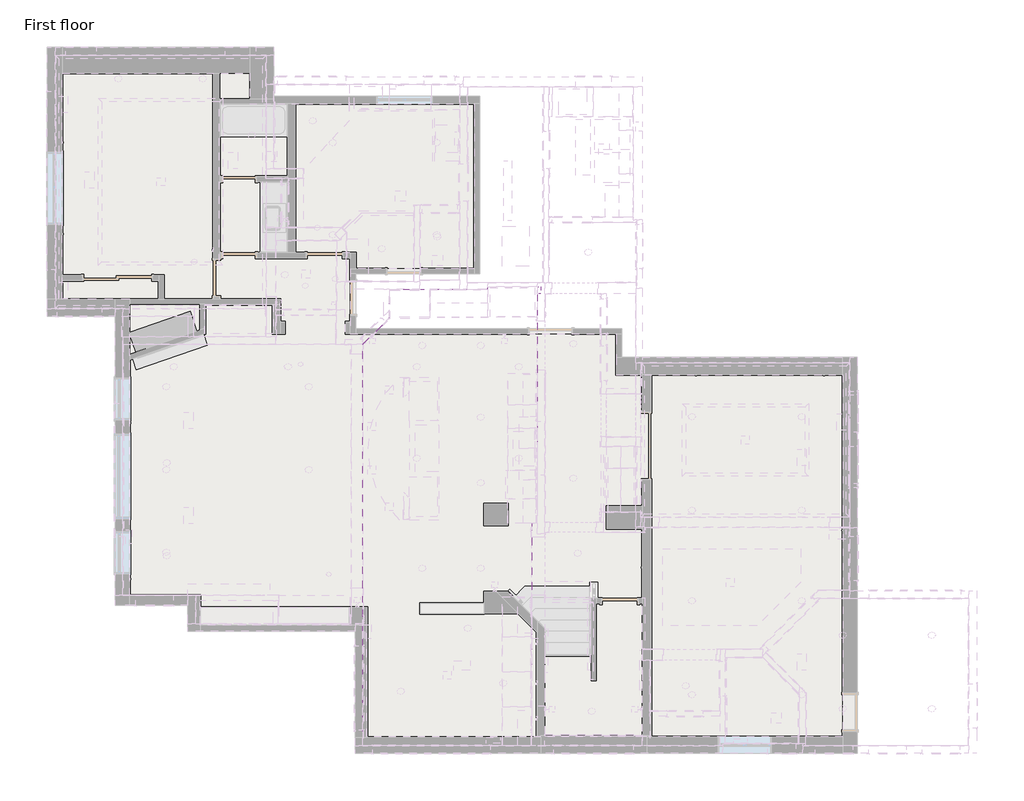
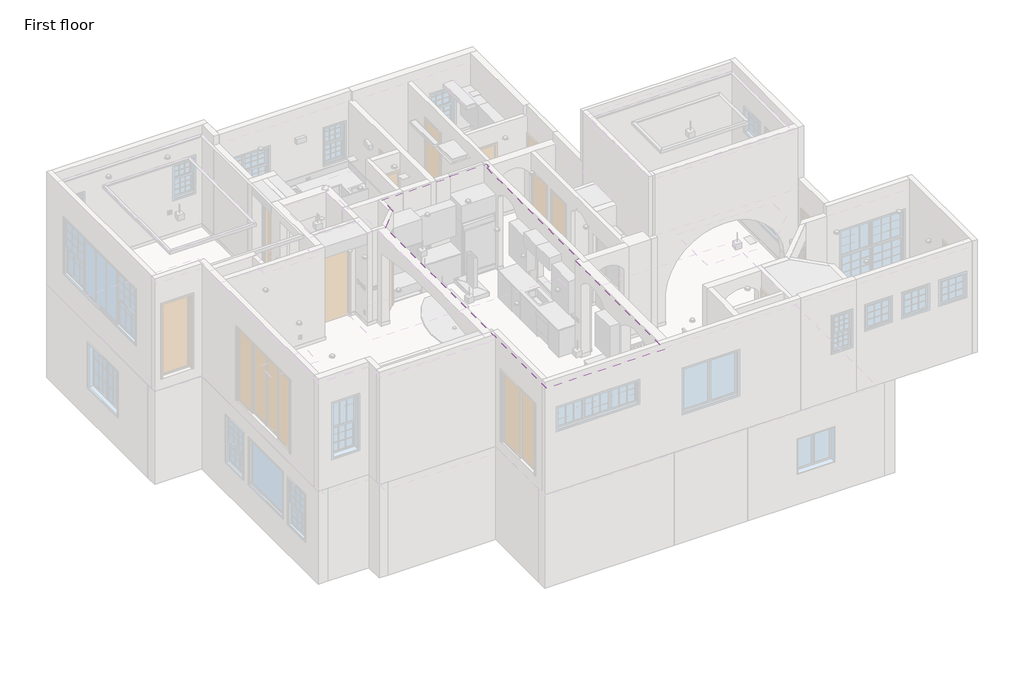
# One storey, part 8 of 14: 1 covering, 1 slab.
"""IFC4 building model written with IfcOpenShell, lengths in millimetres."""

from ifc_helpers import new_model, si_unit, frame, origin, place, context, project, spatial, polyline, circle_curve, faceted_brep, element, save
from ifc_brep_helpers import plane_surface, revolved_surface, advanced_brep

model = new_model("IFC4")

# Units and contexts
model_context = context("Model", 3, world=origin())
ifc_project = project(units=[si_unit("LENGTHUNIT", "METRE", prefix="MILLI")], contexts=[model_context])

# Site, building, storey
site = spatial("IfcSite", under=ifc_project)
building = spatial("IfcBuilding", under=site)
storey = spatial("IfcBuildingStorey", under=building, Name="First floor", Elevation=0.0)

# Covering
placement = place(None, origin())
element("IfcCovering", 1, ObjectType="Ceiling_1.5\" 1", at=placement, inside=storey, context=model_context, shape_type="AdvancedBrep", body=[
    advanced_brep(
    [(2870.2, 10045.7, 6299.2), (736.4972395, 10045.7, 6299.2), (736.4972395, 9423.2972395, 6299.2), (165.1, 8851.9, 6299.2), (165.1, 165.1, 6299.2), (3822.7, 165.1, 6299.2), (3822.7, 4984.6447939, 6299.2), (3937.0, 4984.6447939, 6299.2), (3937.0, 9943.9947939, 6299.2), (4019.55, 9943.9947939, 6299.2), (4019.55, 10096.5, 6299.2), (3937.0, 10096.5, 6299.2), (2870.2, 10096.5, 6299.2), (1447.6972395, 8890.0, 6299.2), (1447.6972395, 8763.0, 6299.2), (2717.6972395, 8890.0, 6299.2), (2717.6972395, 8763.0, 6299.2), (2717.6972395, 7340.6, 6299.2), (2717.6972395, 7213.6, 6299.2), (2717.6972395, 5918.2, 6299.2), (2717.6972395, 5791.2, 6299.2), (2717.6972395, 4068.516738, 6299.2), (2717.6972395, 3941.516738, 6299.2), (1447.6972395, 4068.516738, 6299.2), (1447.6972395, 3941.516738, 6299.2), (736.4972395, 10045.7, 6261.1), (2870.2, 10045.7, 6261.1), (2870.2, 10096.5, 6261.1), (3937.0, 10096.5, 6261.1), (4019.55, 10096.5, 6261.1), (4019.55, 9943.9947939, 6261.1), (3937.0, 9943.9947939, 6261.1), (3937.0, 4984.6447939, 6261.1), (3822.7, 4984.6447939, 6261.1), (3822.7, 165.1, 6261.1), (165.1, 165.1, 6261.1), (165.1, 8851.9, 6261.1), (736.4972395, 9423.2972395, 6261.1), (1447.6972395, 8763.0, 6261.1), (1447.6972395, 8890.0, 6261.1), (2717.6972395, 8763.0, 6261.1), (2717.6972395, 8890.0, 6261.1), (2717.6972395, 7213.6, 6261.1), (2717.6972395, 7340.6, 6261.1), (2717.6972395, 5791.2, 6261.1), (2717.6972395, 5918.2, 6261.1), (2717.6972395, 3941.516738, 6261.1), (2717.6972395, 4068.516738, 6261.1), (1447.6972395, 3941.516738, 6261.1), (1447.6972395, 4068.516738, 6261.1)],
    [
        (0, 1),
        (1, 2),
        (2, 3),
        (3, 4),
        (4, 5),
        (5, 6),
        (6, 7),
        (7, 8),
        (8, 9),
        (9, 10),
        (10, 11),
        (11, 12),
        (12, 0),
        (13, 14, circle_curve(frame((1447.6972395, 8826.5, 6299.2), z_axis=(0.0, 0.0, -1.0), x_axis=(0.0, -1.0, 0.0)), 63.5)),
        (14, 13, circle_curve(frame((1447.6972395, 8826.5, 6299.2), z_axis=(0.0, 0.0, -1.0), x_axis=(0.0, -1.0, 0.0)), 63.5)),
        (15, 16, circle_curve(frame((2717.6972395, 8826.5, 6299.2), z_axis=(0.0, 0.0, -1.0), x_axis=(0.0, -1.0, 0.0)), 63.5)),
        (16, 15, circle_curve(frame((2717.6972395, 8826.5, 6299.2), z_axis=(0.0, 0.0, -1.0), x_axis=(0.0, -1.0, 0.0)), 63.5)),
        (17, 18, circle_curve(frame((2717.6972395, 7277.1, 6299.2), z_axis=(0.0, 0.0, -1.0), x_axis=(0.0, -1.0, 0.0)), 63.5)),
        (18, 17, circle_curve(frame((2717.6972395, 7277.1, 6299.2), z_axis=(0.0, 0.0, -1.0), x_axis=(0.0, -1.0, 0.0)), 63.5)),
        (19, 20, circle_curve(frame((2717.6972395, 5854.7, 6299.2), z_axis=(0.0, 0.0, -1.0), x_axis=(0.0, -1.0, 0.0)), 63.5)),
        (20, 19, circle_curve(frame((2717.6972395, 5854.7, 6299.2), z_axis=(0.0, 0.0, -1.0), x_axis=(0.0, -1.0, 0.0)), 63.5)),
        (21, 22, circle_curve(frame((2717.6972395, 4005.016738, 6299.2), z_axis=(0.0, 0.0, -1.0), x_axis=(0.0, -1.0, 0.0)), 63.5)),
        (22, 21, circle_curve(frame((2717.6972395, 4005.016738, 6299.2), z_axis=(0.0, 0.0, -1.0), x_axis=(0.0, -1.0, 0.0)), 63.5)),
        (23, 24, circle_curve(frame((1447.6972395, 4005.016738, 6299.2), z_axis=(0.0, 0.0, -1.0), x_axis=(0.0, -1.0, 0.0)), 63.5)),
        (24, 23, circle_curve(frame((1447.6972395, 4005.016738, 6299.2), z_axis=(0.0, 0.0, -1.0), x_axis=(0.0, -1.0, 0.0)), 63.5)),
        (25, 26),
        (26, 27),
        (27, 28),
        (28, 29),
        (29, 30),
        (30, 31),
        (31, 32),
        (32, 33),
        (33, 34),
        (34, 35),
        (35, 36),
        (36, 37),
        (37, 25),
        (38, 39, circle_curve(frame((1447.6972395, 8826.5, 6261.1), z_axis=(0.0, 0.0, 1.0), x_axis=(0.0, -1.0, 0.0)), 63.5)),
        (39, 38, circle_curve(frame((1447.6972395, 8826.5, 6261.1), z_axis=(0.0, 0.0, 1.0), x_axis=(0.0, -1.0, 0.0)), 63.5)),
        (40, 41, circle_curve(frame((2717.6972395, 8826.5, 6261.1), z_axis=(0.0, 0.0, 1.0), x_axis=(0.0, -1.0, 0.0)), 63.5)),
        (41, 40, circle_curve(frame((2717.6972395, 8826.5, 6261.1), z_axis=(0.0, 0.0, 1.0), x_axis=(0.0, -1.0, 0.0)), 63.5)),
        (42, 43, circle_curve(frame((2717.6972395, 7277.1, 6261.1), z_axis=(0.0, 0.0, 1.0), x_axis=(0.0, -1.0, 0.0)), 63.5)),
        (43, 42, circle_curve(frame((2717.6972395, 7277.1, 6261.1), z_axis=(0.0, 0.0, 1.0), x_axis=(0.0, -1.0, 0.0)), 63.5)),
        (44, 45, circle_curve(frame((2717.6972395, 5854.7, 6261.1), z_axis=(0.0, 0.0, 1.0), x_axis=(0.0, -1.0, 0.0)), 63.5)),
        (45, 44, circle_curve(frame((2717.6972395, 5854.7, 6261.1), z_axis=(0.0, 0.0, 1.0), x_axis=(0.0, -1.0, 0.0)), 63.5)),
        (46, 47, circle_curve(frame((2717.6972395, 4005.016738, 6261.1), z_axis=(0.0, 0.0, 1.0), x_axis=(0.0, -1.0, 0.0)), 63.5)),
        (47, 46, circle_curve(frame((2717.6972395, 4005.016738, 6261.1), z_axis=(0.0, 0.0, 1.0), x_axis=(0.0, -1.0, 0.0)), 63.5)),
        (48, 49, circle_curve(frame((1447.6972395, 4005.016738, 6261.1), z_axis=(0.0, 0.0, 1.0), x_axis=(0.0, -1.0, 0.0)), 63.5)),
        (49, 48, circle_curve(frame((1447.6972395, 4005.016738, 6261.1), z_axis=(0.0, 0.0, 1.0), x_axis=(0.0, -1.0, 0.0)), 63.5)),
        (0, 26),
        (25, 1),
        (37, 2),
        (36, 3),
        (35, 4),
        (34, 5),
        (33, 6),
        (32, 7),
        (31, 8),
        (30, 9),
        (29, 10),
        (27, 12),
        (38, 14),
        (13, 39),
        (40, 16),
        (15, 41),
        (42, 18),
        (17, 43),
        (44, 20),
        (19, 45),
        (46, 22),
        (21, 47),
        (48, 24),
        (23, 49),
    ],
    [
        plane_surface(frame((1397.0, 10045.7, 6299.2), z_axis=(0.0, 0.0, 1.0), x_axis=(-1.0, 0.0, 0.0))),
        plane_surface(frame((1397.0, 10045.7, 6261.1), z_axis=(0.0, 0.0, -1.0), x_axis=(1.0, 0.0, 0.0))),
        plane_surface(frame((2870.2, 10045.7, 6299.2), z_axis=(0.0, 1.0, 0.0), x_axis=(0.0, 0.0, -1.0))),
        plane_surface(frame((736.4972395, 10045.7, 6299.2), z_axis=(-1.0, 0.0, 0.0), x_axis=(0.0, 0.0, -1.0))),
        plane_surface(frame((736.4972395, 9423.2972395, 6299.2), z_axis=(-0.7071067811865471, 0.7071067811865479, 0.0), x_axis=(0.0, 0.0, -1.0))),
        plane_surface(frame((165.1, 8851.9, 6299.2), z_axis=(-1.0, 0.0, 0.0), x_axis=(0.0, 0.0, -1.0))),
        plane_surface(frame((165.1, 165.1, 6299.2), z_axis=(0.0, -1.0, 0.0), x_axis=(0.0, 0.0, -1.0))),
        plane_surface(frame((3822.7, 165.1, 6299.2), z_axis=(1.0, 0.0, 0.0), x_axis=(0.0, 0.0, -1.0))),
        plane_surface(frame((3822.7, 4984.6447939, 6299.2), z_axis=(0.0, -1.0, 0.0), x_axis=(0.0, 0.0, -1.0))),
        plane_surface(frame((3937.0, 4984.6447939, 6299.2), z_axis=(1.0, 0.0, 0.0), x_axis=(0.0, 0.0, -1.0))),
        plane_surface(frame((3937.0, 9943.9947939, 6299.2), z_axis=(0.0, -1.0, 0.0), x_axis=(0.0, 0.0, -1.0))),
        plane_surface(frame((4019.55, 9943.9947939, 6299.2), z_axis=(1.0, 0.0, 0.0), x_axis=(0.0, 0.0, -1.0))),
        plane_surface(frame((4019.55, 10096.5, 6299.2), z_axis=(0.0, 1.0, 0.0), x_axis=(0.0, 0.0, -1.0))),
        plane_surface(frame((2870.2, 10096.5, 6299.2), z_axis=(-1.0, 0.0, 0.0), x_axis=(0.0, 0.0, -1.0))),
        revolved_surface(polyline([(1447.6972395, 8763.0, 6261.1), (1447.6972395, 8763.0, 6299.2)]), (1447.6972395, 8826.5, 6299.2), (0.0, 0.0, -1.0)),
        revolved_surface(polyline([(2717.6972395, 8763.0, 6261.1), (2717.6972395, 8763.0, 6299.2)]), (2717.6972395, 8826.5, 6299.2), (0.0, 0.0, -1.0)),
        revolved_surface(polyline([(2717.6972395, 7213.6, 6261.1), (2717.6972395, 7213.6, 6299.2)]), (2717.6972395, 7277.1, 6299.2), (0.0, 0.0, -1.0)),
        revolved_surface(polyline([(2717.6972395, 5791.2, 6261.1), (2717.6972395, 5791.2, 6299.2)]), (2717.6972395, 5854.7, 6299.2), (0.0, 0.0, -1.0)),
        revolved_surface(polyline([(2717.6972395, 3941.516738, 6261.1), (2717.6972395, 3941.516738, 6299.2)]), (2717.6972395, 4005.016738, 6299.2), (0.0, 0.0, -1.0)),
        revolved_surface(polyline([(1447.6972395, 3941.516738, 6261.1), (1447.6972395, 3941.516738, 6299.2)]), (1447.6972395, 4005.016738, 6299.2), (0.0, 0.0, -1.0)),
    ],
    [
        (0, [[1, 2, 3, 4, 5, 6, 7, 8, 9, 10, 11, 12, 13], [14, 15], [16, 17], [18, 19], [20, 21], [22, 23], [24, 25]]),
        (1, [[26, 27, 28, 29, 30, 31, 32, 33, 34, 35, 36, 37, 38], [39, 40], [41, 42], [43, 44], [45, 46], [47, 48], [49, 50]]),
        (2, [[-1, 51, -26, 52]]),
        (3, [[-2, -52, -38, 53]]),
        (4, [[-3, -53, -37, 54]]),
        (5, [[-4, -54, -36, 55]]),
        (6, [[-5, -55, -35, 56]]),
        (7, [[-6, -56, -34, 57]]),
        (8, [[-7, -57, -33, 58]]),
        (9, [[-8, -58, -32, 59]]),
        (10, [[-9, -59, -31, 60]]),
        (11, [[-10, -60, -30, 61]]),
        (12, [[-12, -11, -61, -29, -28, 62]]),
        (13, [[-13, -62, -27, -51]]),
        (14, [[63, -14, 64, -39]]),
        (14, [[-63, -40, -64, -15]]),
        (15, [[65, -16, 66, -41]]),
        (15, [[-65, -42, -66, -17]]),
        (16, [[67, -18, 68, -43]]),
        (16, [[-67, -44, -68, -19]]),
        (17, [[69, -20, 70, -45]]),
        (17, [[-69, -46, -70, -21]]),
        (18, [[71, -22, 72, -47]]),
        (18, [[-71, -48, -72, -23]]),
        (19, [[73, -24, 74, -49]]),
        (19, [[-73, -50, -74, -25]]),
    ],
),
])

# Slab
element("IfcSlab", 2, ObjectType="Floor_6\"", at=placement, inside=storey, context=model_context, shape_type="Brep", body=[
    faceted_brep([(-6337.3, 9829.8, -152.4), (-6337.3, 14719.3, -152.4), (-2279.65, 14719.3, -152.4), (-2279.65, 14058.9, -152.4), (2578.1, 14058.9, -152.4), (2578.1, 10490.2, -152.4), (-101.6, 10490.2, -152.4), (-101.6, 9080.5, -152.4), (5651.5, 9080.5, -152.4), (5651.5, 8191.5, -152.4), (10553.7, 8191.5, -152.4), (10553.7, 355.6, -152.4), (6305.55, 355.6, -152.4), (4019.5496704, 355.6, -152.4), (254.0, 355.6, -152.4), (254.0, 2768.6, -152.4), (-3352.8, 2768.6, -152.4), (-3352.8, 3416.3, -152.4), (-4876.8, 3416.3, -152.4), (-4876.8, 9062.8370609, -152.4), (-4747.5983246, 8686.9776415, -152.4), (-3426.4741454, 9141.1140781, -152.4), (-3571.7978051, 9563.8738155, -152.4), (-4876.8, 9115.279311, -152.4), (-4876.8, 9829.8, -152.4), (-6337.3, 14719.3, 0.0), (-6337.3, 9829.8, 0.0), (-4876.8, 9829.8, 0.0), (-4876.8, 9115.279311, 0.0), (-3571.7978051, 9563.8738155, 0.0), (-3426.4741454, 9141.1140781, 0.0), (-4747.5983246, 8686.9776415, 0.0), (-4876.8, 9062.8370609, 0.0), (-4876.8, 3416.3, 0.0), (-3352.8, 3416.3, 0.0), (-3352.8, 2768.6, 0.0), (254.0, 2768.6, 0.0), (254.0, 355.6, 0.0), (4019.5496704, 355.6, 0.0), (6305.55, 355.6, 0.0), (6400.8, 355.6, 0.0), (10553.7, 355.6, 0.0), (10553.7, 8191.5, 0.0), (5651.5, 8191.5, 0.0), (5651.5, 9080.5, 0.0), (-101.6, 9080.5, 0.0), (-101.6, 10490.2, 0.0), (2578.1, 10490.2, 0.0), (2578.1, 14058.9, 0.0), (-2279.65, 14058.9, 0.0), (-2279.65, 14719.3, 0.0)], [[[0, 1, 2, 3, 4, 5, 6, 7, 8, 9, 10, 11, 12, 13, 14, 15, 16, 17, 18, 19, 20, 21, 22, 23, 24]], [[25, 26, 27, 28, 29, 30, 31, 32, 33, 34, 35, 36, 37, 38, 39, 40, 41, 42, 43, 44, 45, 46, 47, 48, 49, 50]], [[1, 0, 26, 25]], [[2, 1, 25, 50]], [[3, 2, 50, 49]], [[4, 3, 49, 48]], [[5, 4, 48, 47]], [[6, 5, 47, 46]], [[7, 6, 46, 45]], [[8, 7, 45, 44]], [[9, 8, 44, 43]], [[10, 9, 43, 42]], [[11, 10, 42, 41]], [[14, 13, 12, 11, 41, 40, 39, 38, 37]], [[15, 14, 37, 36]], [[16, 15, 36, 35]], [[17, 16, 35, 34]], [[18, 17, 34, 33]], [[18, 33, 32, 19]], [[27, 24, 23, 28]], [[0, 24, 27, 26]], [[30, 21, 20, 31]], [[31, 20, 19, 32]], [[22, 29, 28, 23]], [[21, 30, 29, 22]]]),
])

save(model, "model.ifc")
